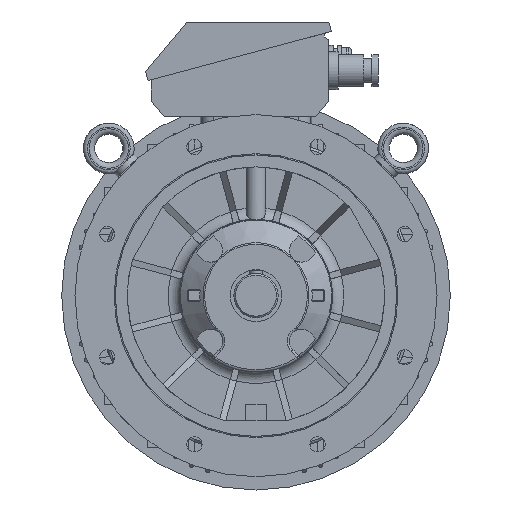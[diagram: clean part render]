
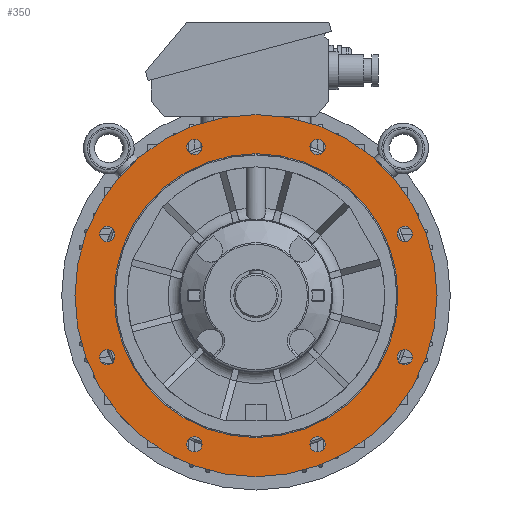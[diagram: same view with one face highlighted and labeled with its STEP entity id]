
A CAD part, front view. The second image highlights one B-rep face of the part: STEP entity #350.
In plain terms, the highlighted planar face has unit normal (0, -1, 0).
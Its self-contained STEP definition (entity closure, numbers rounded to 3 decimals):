
#350 = ADVANCED_FACE( '', ( #1483, #1484, #1485, #1486, #1487, #1488, #1489, #1490, #1491, #1492 ), #1493, .F. );
#1483 = FACE_BOUND( '', #3515, .T. );
#1484 = FACE_BOUND( '', #3516, .T. );
#1485 = FACE_BOUND( '', #3517, .T. );
#1486 = FACE_BOUND( '', #3518, .T. );
#1487 = FACE_BOUND( '', #3519, .T. );
#1488 = FACE_BOUND( '', #3520, .T. );
#1489 = FACE_BOUND( '', #3521, .T. );
#1490 = FACE_BOUND( '', #3522, .T. );
#1491 = FACE_BOUND( '', #3523, .T. );
#1492 = FACE_OUTER_BOUND( '', #3524, .T. );
#1493 = PLANE( '', #3525 );
#3515 = EDGE_LOOP( '', ( #7213 ) );
#3516 = EDGE_LOOP( '', ( #7214 ) );
#3517 = EDGE_LOOP( '', ( #7215 ) );
#3518 = EDGE_LOOP( '', ( #7216 ) );
#3519 = EDGE_LOOP( '', ( #7217 ) );
#3520 = EDGE_LOOP( '', ( #7218 ) );
#3521 = EDGE_LOOP( '', ( #7219 ) );
#3522 = EDGE_LOOP( '', ( #7220 ) );
#3523 = EDGE_LOOP( '', ( #7221 ) );
#3524 = EDGE_LOOP( '', ( #7222 ) );
#3525 = AXIS2_PLACEMENT_3D( '', #7223, #7224, #7225 );
#7213 = ORIENTED_EDGE( '', *, *, #12492, .F. );
#7214 = ORIENTED_EDGE( '', *, *, #12493, .F. );
#7215 = ORIENTED_EDGE( '', *, *, #12494, .F. );
#7216 = ORIENTED_EDGE( '', *, *, #12495, .F. );
#7217 = ORIENTED_EDGE( '', *, *, #12496, .F. );
#7218 = ORIENTED_EDGE( '', *, *, #12497, .F. );
#7219 = ORIENTED_EDGE( '', *, *, #12498, .F. );
#7220 = ORIENTED_EDGE( '', *, *, #12499, .F. );
#7221 = ORIENTED_EDGE( '', *, *, #12500, .F. );
#7222 = ORIENTED_EDGE( '', *, *, #12107, .F. );
#7223 = CARTESIAN_POINT( '', ( -176.395, -85.5, 0. ) );
#7224 = DIRECTION( '', ( 0., 1., 0. ) );
#7225 = DIRECTION( '', ( -1., 0., 0. ) );
#12107 = EDGE_CURVE( '', #14903, #14903, #14904, .T. );
#12492 = EDGE_CURVE( '', #15514, #15514, #15515, .T. );
#12493 = EDGE_CURVE( '', #15516, #15516, #15517, .T. );
#12494 = EDGE_CURVE( '', #15518, #15518, #15519, .T. );
#12495 = EDGE_CURVE( '', #15520, #15520, #15521, .T. );
#12496 = EDGE_CURVE( '', #15522, #15522, #15523, .T. );
#12497 = EDGE_CURVE( '', #15524, #15524, #15525, .T. );
#12498 = EDGE_CURVE( '', #15526, #15526, #15527, .T. );
#12499 = EDGE_CURVE( '', #15528, #15528, #15529, .T. );
#12500 = EDGE_CURVE( '', #15530, #15530, #15531, .T. );
#14903 = VERTEX_POINT( '', #20337 );
#14904 = CIRCLE( '', #20338, 224.995 );
#15514 = VERTEX_POINT( '', #21684 );
#15515 = CIRCLE( '', #21685, 176.395 );
#15516 = VERTEX_POINT( '', #21686 );
#15517 = CIRCLE( '', #21687, 9.5 );
#15518 = VERTEX_POINT( '', #21688 );
#15519 = CIRCLE( '', #21689, 9.5 );
#15520 = VERTEX_POINT( '', #21690 );
#15521 = CIRCLE( '', #21691, 9.5 );
#15522 = VERTEX_POINT( '', #21692 );
#15523 = CIRCLE( '', #21693, 9.5 );
#15524 = VERTEX_POINT( '', #21694 );
#15525 = CIRCLE( '', #21695, 9.5 );
#15526 = VERTEX_POINT( '', #21696 );
#15527 = CIRCLE( '', #21697, 9.5 );
#15528 = VERTEX_POINT( '', #21698 );
#15529 = CIRCLE( '', #21699, 9.5 );
#15530 = VERTEX_POINT( '', #21700 );
#15531 = CIRCLE( '', #21701, 9.5 );
#20337 = CARTESIAN_POINT( '', ( -224.995, -85.5, 0. ) );
#20338 = AXIS2_PLACEMENT_3D( '', #25943, #25944, #25945 );
#21684 = CARTESIAN_POINT( '', ( 176.395, -85.5, 0. ) );
#21685 = AXIS2_PLACEMENT_3D( '', #26508, #26509, #26510 );
#21686 = CARTESIAN_POINT( '', ( 194.276, -85.5, 76.537 ) );
#21687 = AXIS2_PLACEMENT_3D( '', #26511, #26512, #26513 );
#21688 = CARTESIAN_POINT( '', ( 194.276, -85.5, -76.537 ) );
#21689 = AXIS2_PLACEMENT_3D( '', #26514, #26515, #26516 );
#21690 = CARTESIAN_POINT( '', ( 86.037, -85.5, -184.776 ) );
#21691 = AXIS2_PLACEMENT_3D( '', #26517, #26518, #26519 );
#21692 = CARTESIAN_POINT( '', ( -67.037, -85.5, -184.776 ) );
#21693 = AXIS2_PLACEMENT_3D( '', #26520, #26521, #26522 );
#21694 = CARTESIAN_POINT( '', ( -175.276, -85.5, -76.537 ) );
#21695 = AXIS2_PLACEMENT_3D( '', #26523, #26524, #26525 );
#21696 = CARTESIAN_POINT( '', ( -175.276, -85.5, 76.537 ) );
#21697 = AXIS2_PLACEMENT_3D( '', #26526, #26527, #26528 );
#21698 = CARTESIAN_POINT( '', ( -67.037, -85.5, 184.776 ) );
#21699 = AXIS2_PLACEMENT_3D( '', #26529, #26530, #26531 );
#21700 = CARTESIAN_POINT( '', ( 86.037, -85.5, 184.776 ) );
#21701 = AXIS2_PLACEMENT_3D( '', #26532, #26533, #26534 );
#25943 = CARTESIAN_POINT( '', ( 0., -85.5, 0. ) );
#25944 = DIRECTION( '', ( 0., 1., 0. ) );
#25945 = DIRECTION( '', ( -1., 0., 0. ) );
#26508 = CARTESIAN_POINT( '', ( 0., -85.5, 0. ) );
#26509 = DIRECTION( '', ( 0., -1., 0. ) );
#26510 = DIRECTION( '', ( 1., 0., 0. ) );
#26511 = CARTESIAN_POINT( '', ( 184.776, -85.5, 76.537 ) );
#26512 = DIRECTION( '', ( 0., -1., 0. ) );
#26513 = DIRECTION( '', ( 1., 0., 0. ) );
#26514 = CARTESIAN_POINT( '', ( 184.776, -85.5, -76.537 ) );
#26515 = DIRECTION( '', ( 0., -1., 0. ) );
#26516 = DIRECTION( '', ( 1., 0., 0. ) );
#26517 = CARTESIAN_POINT( '', ( 76.537, -85.5, -184.776 ) );
#26518 = DIRECTION( '', ( 0., -1., 0. ) );
#26519 = DIRECTION( '', ( 1., 0., 0. ) );
#26520 = CARTESIAN_POINT( '', ( -76.537, -85.5, -184.776 ) );
#26521 = DIRECTION( '', ( 0., -1., 0. ) );
#26522 = DIRECTION( '', ( 1., 0., 0. ) );
#26523 = CARTESIAN_POINT( '', ( -184.776, -85.5, -76.537 ) );
#26524 = DIRECTION( '', ( 0., -1., 0. ) );
#26525 = DIRECTION( '', ( 1., 0., 0. ) );
#26526 = CARTESIAN_POINT( '', ( -184.776, -85.5, 76.537 ) );
#26527 = DIRECTION( '', ( 0., -1., 0. ) );
#26528 = DIRECTION( '', ( 1., 0., 0. ) );
#26529 = CARTESIAN_POINT( '', ( -76.537, -85.5, 184.776 ) );
#26530 = DIRECTION( '', ( 0., -1., 0. ) );
#26531 = DIRECTION( '', ( 1., 0., 0. ) );
#26532 = CARTESIAN_POINT( '', ( 76.537, -85.5, 184.776 ) );
#26533 = DIRECTION( '', ( 0., -1., 0. ) );
#26534 = DIRECTION( '', ( 1., 0., 0. ) );
